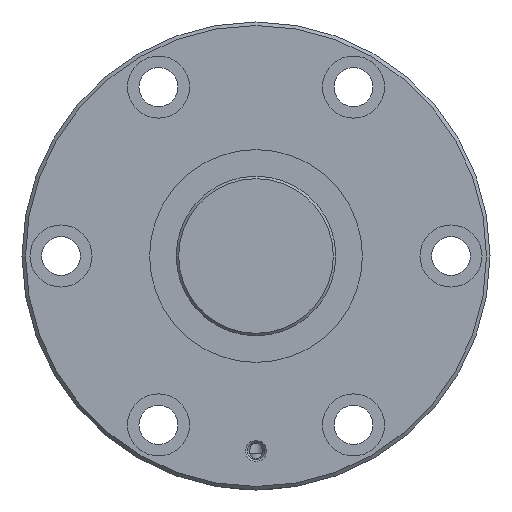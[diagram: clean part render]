
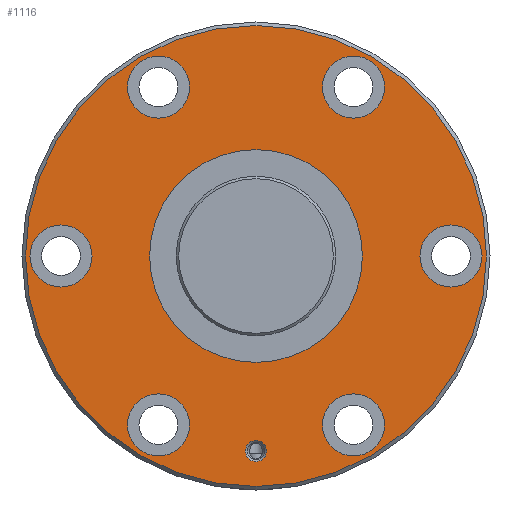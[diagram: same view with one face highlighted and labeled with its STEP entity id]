
A CAD part, left-side view. The second image highlights one B-rep face of the part: STEP entity #1116.
In plain terms, the highlighted planar face has unit normal (-1, 0, 0).
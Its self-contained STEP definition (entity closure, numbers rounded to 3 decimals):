
#193=ORIENTED_EDGE('',*,*,#434,.T.);
#194=ORIENTED_EDGE('',*,*,#435,.T.);
#195=ORIENTED_EDGE('',*,*,#436,.T.);
#196=ORIENTED_EDGE('',*,*,#437,.T.);
#197=ORIENTED_EDGE('',*,*,#438,.T.);
#198=ORIENTED_EDGE('',*,*,#439,.T.);
#199=ORIENTED_EDGE('',*,*,#440,.T.);
#200=ORIENTED_EDGE('',*,*,#441,.T.);
#201=ORIENTED_EDGE('',*,*,#433,.F.);
#433=EDGE_CURVE('',#555,#555,#656,.T.);
#434=EDGE_CURVE('',#556,#556,#657,.T.);
#435=EDGE_CURVE('',#557,#557,#658,.F.);
#436=EDGE_CURVE('',#558,#558,#659,.T.);
#437=EDGE_CURVE('',#559,#559,#660,.T.);
#438=EDGE_CURVE('',#560,#560,#661,.T.);
#439=EDGE_CURVE('',#561,#561,#662,.T.);
#440=EDGE_CURVE('',#562,#562,#663,.T.);
#441=EDGE_CURVE('',#563,#563,#664,.T.);
#555=VERTEX_POINT('',#1891);
#556=VERTEX_POINT('',#1894);
#557=VERTEX_POINT('',#1896);
#558=VERTEX_POINT('',#1898);
#559=VERTEX_POINT('',#1900);
#560=VERTEX_POINT('',#1902);
#561=VERTEX_POINT('',#1904);
#562=VERTEX_POINT('',#1906);
#563=VERTEX_POINT('',#1908);
#656=CIRCLE('',#1243,65.);
#657=CIRCLE('',#1245,30.);
#658=CIRCLE('',#1246,8.75);
#659=CIRCLE('',#1247,3.);
#660=CIRCLE('',#1248,8.75);
#661=CIRCLE('',#1249,8.75);
#662=CIRCLE('',#1250,8.75);
#663=CIRCLE('',#1251,8.75);
#664=CIRCLE('',#1252,8.75);
#750=EDGE_LOOP('',(#193));
#751=EDGE_LOOP('',(#194));
#752=EDGE_LOOP('',(#195));
#753=EDGE_LOOP('',(#196));
#754=EDGE_LOOP('',(#197));
#755=EDGE_LOOP('',(#198));
#756=EDGE_LOOP('',(#199));
#757=EDGE_LOOP('',(#200));
#758=EDGE_LOOP('',(#201));
#924=FACE_BOUND('',#750,.T.);
#925=FACE_BOUND('',#751,.T.);
#926=FACE_BOUND('',#752,.T.);
#927=FACE_BOUND('',#753,.T.);
#928=FACE_BOUND('',#754,.T.);
#929=FACE_BOUND('',#755,.T.);
#930=FACE_BOUND('',#756,.T.);
#931=FACE_BOUND('',#757,.T.);
#932=FACE_BOUND('',#758,.T.);
#1076=PLANE('',#1244);
#1116=ADVANCED_FACE('',(#924,#925,#926,#927,#928,#929,#930,#931,#932),#1076,
 .T.);
#1243=AXIS2_PLACEMENT_3D('',#1890,#1456,#1457);
#1244=AXIS2_PLACEMENT_3D('',#1892,#1458,#1459);
#1245=AXIS2_PLACEMENT_3D('',#1893,#1460,#1461);
#1246=AXIS2_PLACEMENT_3D('',#1895,#1462,#1463);
#1247=AXIS2_PLACEMENT_3D('',#1897,#1464,#1465);
#1248=AXIS2_PLACEMENT_3D('',#1899,#1466,#1467);
#1249=AXIS2_PLACEMENT_3D('',#1901,#1468,#1469);
#1250=AXIS2_PLACEMENT_3D('',#1903,#1470,#1471);
#1251=AXIS2_PLACEMENT_3D('',#1905,#1472,#1473);
#1252=AXIS2_PLACEMENT_3D('',#1907,#1474,#1475);
#1456=DIRECTION('',(1.,0.,0.));
#1457=DIRECTION('',(0.,0.,-1.));
#1458=DIRECTION('',(-1.,0.,0.));
#1459=DIRECTION('',(0.,0.,1.));
#1460=DIRECTION('',(1.,0.,0.));
#1461=DIRECTION('',(0.,0.,-1.));
#1462=DIRECTION('',(-1.,0.,0.));
#1463=DIRECTION('',(0.,0.,1.));
#1464=DIRECTION('',(1.,0.,0.));
#1465=DIRECTION('',(0.,0.,-1.));
#1466=DIRECTION('',(1.,0.,0.));
#1467=DIRECTION('',(0.,0.,-1.));
#1468=DIRECTION('',(1.,0.,0.));
#1469=DIRECTION('',(0.,0.,-1.));
#1470=DIRECTION('',(1.,0.,0.));
#1471=DIRECTION('',(0.,0.,-1.));
#1472=DIRECTION('',(1.,0.,0.));
#1473=DIRECTION('',(0.,0.,-1.));
#1474=DIRECTION('',(1.,0.,0.));
#1475=DIRECTION('',(0.,0.,-1.));
#1890=CARTESIAN_POINT('',(0.,0.,0.));
#1891=CARTESIAN_POINT('',(0.,0.,-65.));
#1892=CARTESIAN_POINT('',(0.,65.,0.));
#1893=CARTESIAN_POINT('',(0.,0.,0.));
#1894=CARTESIAN_POINT('',(0.,0.,-30.));
#1895=CARTESIAN_POINT('',(0.,55.,0.));
#1896=CARTESIAN_POINT('',(0.,55.,8.75));
#1897=CARTESIAN_POINT('',(0.,0.,-55.));
#1898=CARTESIAN_POINT('',(0.,0.,-58.));
#1899=CARTESIAN_POINT('',(0.,-55.,0.));
#1900=CARTESIAN_POINT('',(0.,-55.,-8.75));
#1901=CARTESIAN_POINT('',(0.,27.5,47.631));
#1902=CARTESIAN_POINT('',(0.,27.5,38.881));
#1903=CARTESIAN_POINT('',(0.,-27.5,-47.631));
#1904=CARTESIAN_POINT('',(0.,-27.5,-56.381));
#1905=CARTESIAN_POINT('',(0.,-27.5,47.631));
#1906=CARTESIAN_POINT('',(0.,-27.5,38.881));
#1907=CARTESIAN_POINT('',(0.,27.5,-47.631));
#1908=CARTESIAN_POINT('',(0.,27.5,-56.381));
